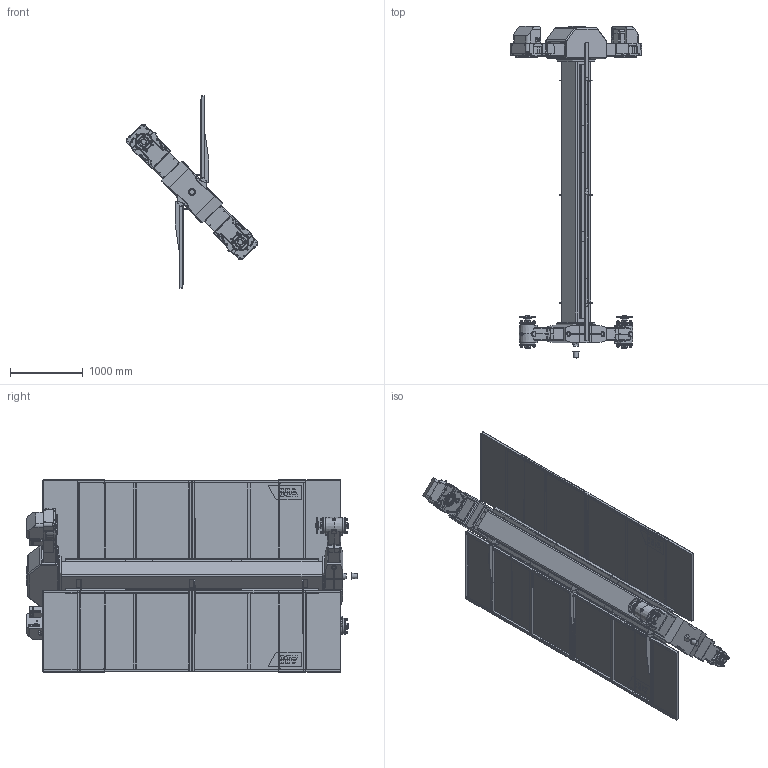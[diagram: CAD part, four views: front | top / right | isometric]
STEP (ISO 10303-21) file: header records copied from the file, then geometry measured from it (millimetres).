
FILE_DESCRIPTION(/* description */ (''),/* implementation_level */ '2;1');
FILE_NAME(/* name */ 'K1000-J1.step',/* time_stamp */ '2024-01-26T10:00:14-07:00',/* author */ (''),/* organization */ (''),/* preprocessor_version */ 'ST-DEVELOPER v20',/* originating_system */ 'Autodesk Translation Framework v12.14.0.127',/* authorisation */ '');
FILE_SCHEMA (('AUTOMOTIVE_DESIGN { 1 0 10303 214 3 1 1 }'));
Products named in the file (1): J1
Bounding box: 1813.32 x 4571 x 2645.78 mm (x, y, z)
Volume: 780001713.9 mm3; surface area: 40433230.6 mm2
Topology: 1 solids, 71 shells, 3708 faces, 8962 edges, 5569 vertices
Faces by surface type: plane 1933, cylinder 1021, bspline 472, cone 163, torus 115, sphere 4
Full cylindrical faces by diameter (mm): 5 x14, 5.5 x14, 8 x2, 9.5 x14, 12 x20, 14 x16, 16 x20, 17 x8, 17.5 x10, 18 x34, 19 x16, 20 x14, 21 x30, 22 x36, 24 x2, 24.33 x16, 30 x16, 31 x4, 40 x2, 45 x2, 50 x4, 52 x4, 57 x2, 60 x4, 64 x4, 70 x5, 80 x10, 82 x2, 96 x2, 100 x1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
Entity records: 174536 total; most frequent: CARTESIAN_POINT 86464, ORIENTED_EDGE 17808, DIRECTION 16869, EDGE_CURVE 8904, AXIS2_PLACEMENT_3D 5962, VERTEX_POINT 5569, LINE 4945, VECTOR 4945
